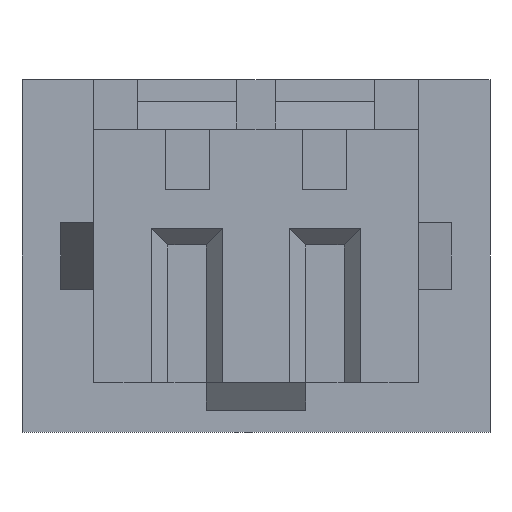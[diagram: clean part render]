
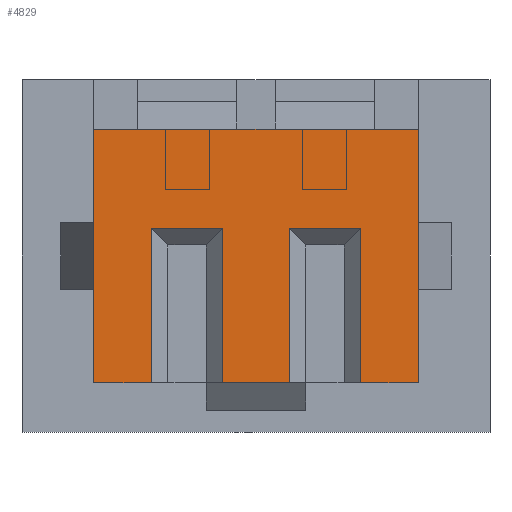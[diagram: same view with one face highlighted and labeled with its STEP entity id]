
A CAD part, front view. The second image highlights one B-rep face of the part: STEP entity #4829.
In plain terms, the highlighted planar face has unit normal (0, -1, 0).
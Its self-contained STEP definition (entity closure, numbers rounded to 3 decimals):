
#961=DIRECTION('',(0.,0.,1.));
#962=VECTOR('',#961,2.3);
#963=CARTESIAN_POINT('',(1.475,-1.975,-1.15));
#964=LINE('',#963,#962);
#1021=DIRECTION('',(0.,0.,1.));
#1022=VECTOR('',#1021,1.4);
#1023=CARTESIAN_POINT('',(0.3,-1.975,-1.15));
#1024=LINE('',#1023,#1022);
#1033=DIRECTION('',(1.,0.,0.));
#1034=VECTOR('',#1033,0.6);
#1035=CARTESIAN_POINT('',(-0.3,-1.975,-1.15));
#1036=LINE('',#1035,#1034);
#1037=DIRECTION('',(1.,0.,0.));
#1038=VECTOR('',#1037,0.525);
#1039=CARTESIAN_POINT('',(-1.475,-1.975,-1.15));
#1040=LINE('',#1039,#1038);
#1041=DIRECTION('',(0.,0.,1.));
#1042=VECTOR('',#1041,2.3);
#1043=CARTESIAN_POINT('',(-1.475,-1.975,-1.15));
#1044=LINE('',#1043,#1042);
#1045=DIRECTION('',(1.,0.,0.));
#1046=VECTOR('',#1045,2.95);
#1047=CARTESIAN_POINT('',(-1.475,-1.975,1.15));
#1048=LINE('',#1047,#1046);
#1049=DIRECTION('',(1.,0.,0.));
#1050=VECTOR('',#1049,0.525);
#1051=CARTESIAN_POINT('',(0.95,-1.975,-1.15));
#1052=LINE('',#1051,#1050);
#1053=DIRECTION('',(0.,0.,1.));
#1054=VECTOR('',#1053,1.4);
#1055=CARTESIAN_POINT('',(0.95,-1.975,-1.15));
#1056=LINE('',#1055,#1054);
#1069=DIRECTION('',(-1.,0.,0.));
#1070=VECTOR('',#1069,0.65);
#1071=CARTESIAN_POINT('',(0.95,-1.975,0.25));
#1072=LINE('',#1071,#1070);
#1081=DIRECTION('',(0.,0.,1.));
#1082=VECTOR('',#1081,1.4);
#1083=CARTESIAN_POINT('',(-0.3,-1.975,-1.15));
#1084=LINE('',#1083,#1082);
#1097=DIRECTION('',(0.,0.,1.));
#1098=VECTOR('',#1097,1.4);
#1099=CARTESIAN_POINT('',(-0.95,-1.975,-1.15));
#1100=LINE('',#1099,#1098);
#1109=DIRECTION('',(-1.,0.,0.));
#1110=VECTOR('',#1109,0.65);
#1111=CARTESIAN_POINT('',(-0.3,-1.975,0.25));
#1112=LINE('',#1111,#1110);
#2574=CARTESIAN_POINT('',(-1.475,-1.975,-1.15));
#2576=VERTEX_POINT('',#2574);
#2577=CARTESIAN_POINT('',(-1.475,-1.975,1.15));
#2579=VERTEX_POINT('',#2577);
#2587=CARTESIAN_POINT('',(1.475,-1.975,1.15));
#2588=VERTEX_POINT('',#2587);
#2589=CARTESIAN_POINT('',(1.475,-1.975,-1.15));
#2591=VERTEX_POINT('',#2589);
#2733=CARTESIAN_POINT('',(-0.95,-1.975,-1.15));
#2734=CARTESIAN_POINT('',(-0.95,-1.975,0.25));
#2735=VERTEX_POINT('',#2733);
#2736=VERTEX_POINT('',#2734);
#2741=CARTESIAN_POINT('',(-0.3,-1.975,0.25));
#2742=VERTEX_POINT('',#2741);
#2745=CARTESIAN_POINT('',(-0.3,-1.975,-1.15));
#2746=VERTEX_POINT('',#2745);
#2885=CARTESIAN_POINT('',(0.3,-1.975,-1.15));
#2886=CARTESIAN_POINT('',(0.3,-1.975,0.25));
#2887=VERTEX_POINT('',#2885);
#2888=VERTEX_POINT('',#2886);
#2891=CARTESIAN_POINT('',(0.95,-1.975,0.25));
#2892=VERTEX_POINT('',#2891);
#2895=CARTESIAN_POINT('',(0.95,-1.975,-1.15));
#2896=VERTEX_POINT('',#2895);
#4803=CARTESIAN_POINT('',(-1.475,-1.975,-1.6));
#4804=DIRECTION('',(0.,-1.,0.));
#4805=DIRECTION('',(1.,0.,0.));
#4806=AXIS2_PLACEMENT_3D('',#4803,#4804,#4805);
#4807=PLANE('',#4806);
#4809=ORIENTED_EDGE('',*,*,#4808,.T.);
#4811=ORIENTED_EDGE('',*,*,#4810,.T.);
#4812=ORIENTED_EDGE('',*,*,#4794,.F.);
#4813=ORIENTED_EDGE('',*,*,#4757,.F.);
#4815=ORIENTED_EDGE('',*,*,#4814,.T.);
#4817=ORIENTED_EDGE('',*,*,#4816,.T.);
#4819=ORIENTED_EDGE('',*,*,#4818,.F.);
#4820=ORIENTED_EDGE('',*,*,#4749,.F.);
#4822=ORIENTED_EDGE('',*,*,#4821,.T.);
#4824=ORIENTED_EDGE('',*,*,#4823,.T.);
#4825=ORIENTED_EDGE('',*,*,#4713,.F.);
#4826=ORIENTED_EDGE('',*,*,#4743,.F.);
#4827=EDGE_LOOP('',(#4809,#4811,#4812,#4813,#4815,#4817,#4819,#4820,#4822,#4824,
#4825,#4826));
#4828=FACE_OUTER_BOUND('',#4827,.F.);
#4829=ADVANCED_FACE('',(#4828),#4807,.T.);
#4713=EDGE_CURVE('',#2591,#2588,#964,.T.);
#4743=EDGE_CURVE('',#2896,#2591,#1052,.T.);
#4749=EDGE_CURVE('',#2576,#2735,#1040,.T.);
#4757=EDGE_CURVE('',#2746,#2887,#1036,.T.);
#4794=EDGE_CURVE('',#2887,#2888,#1024,.T.);
#4808=EDGE_CURVE('',#2896,#2892,#1056,.T.);
#4810=EDGE_CURVE('',#2892,#2888,#1072,.T.);
#4814=EDGE_CURVE('',#2746,#2742,#1084,.T.);
#4816=EDGE_CURVE('',#2742,#2736,#1112,.T.);
#4818=EDGE_CURVE('',#2735,#2736,#1100,.T.);
#4821=EDGE_CURVE('',#2576,#2579,#1044,.T.);
#4823=EDGE_CURVE('',#2579,#2588,#1048,.T.);
